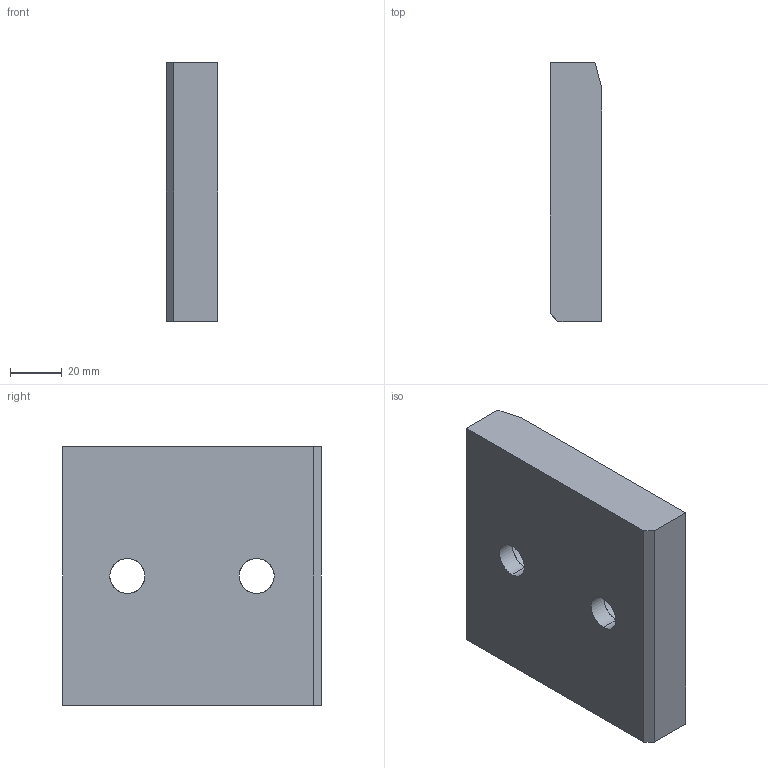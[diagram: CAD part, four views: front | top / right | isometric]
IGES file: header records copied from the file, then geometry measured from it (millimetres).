
Start section: START RECORD GO HERE.
Global section: file name: A915-100X100.igs; native system: DASSAULT SYSTEMES CATIA V5 R20 - www.3ds.com; preprocessor: CATIA Version 5 Release 20 ; author: Utente; organization: NB04-ASUS; date: 20200407.211312; units: millimetre
Bounding box: 20 x 100 x 100 mm (x, y, z)
Surface area: 29056.1 mm2 (no closed solid volume)
Topology: 0 solids, 0 shells, 23 faces, 106 edges, 106 vertices
Faces by surface type: revolution 13, extrusion 10
